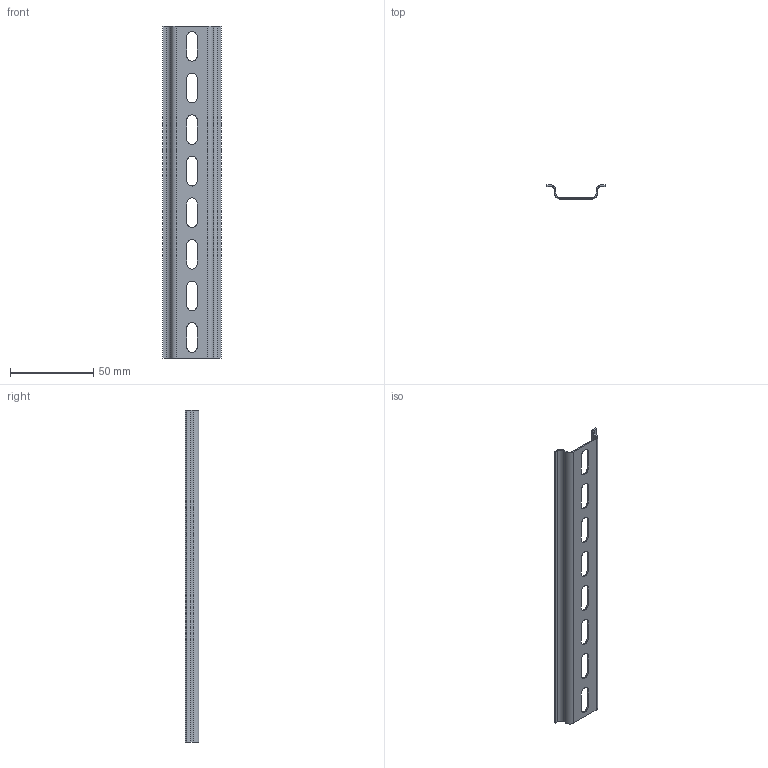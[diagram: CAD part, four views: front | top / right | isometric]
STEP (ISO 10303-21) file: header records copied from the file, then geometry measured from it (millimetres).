
FILE_DESCRIPTION (( 'STEP AP214' ), '1' );
FILE_NAME ('DIN-ðåéêà 200ìì õ 0,8 ìì.STEP', '2025-10-22T12:45:36', ( '' ), ( '' ), 'SwSTEP 2.0', 'SolidWorks 2018', '' );
FILE_SCHEMA (( 'AUTOMOTIVE_DESIGN' ));
Length unit declared in the file: millimetre
Products named in the file (1): DIN-ðåéêà 200ìì õ 0,8 ìì
Bounding box: 35.2 x 8.3 x 200 mm (x, y, z)
Volume: 6582.8 mm3; surface area: 17123.4 mm2
Topology: 1 solids, 1 shells, 78 faces, 196 edges, 120 vertices
Faces by surface type: plane 46, cylinder 32
Entity records: 2374 total; most frequent: DIRECTION 418, CARTESIAN_POINT 395, ORIENTED_EDGE 392, EDGE_CURVE 196, AXIS2_PLACEMENT_3D 143, VECTOR 132, LINE 132, VERTEX_POINT 120
